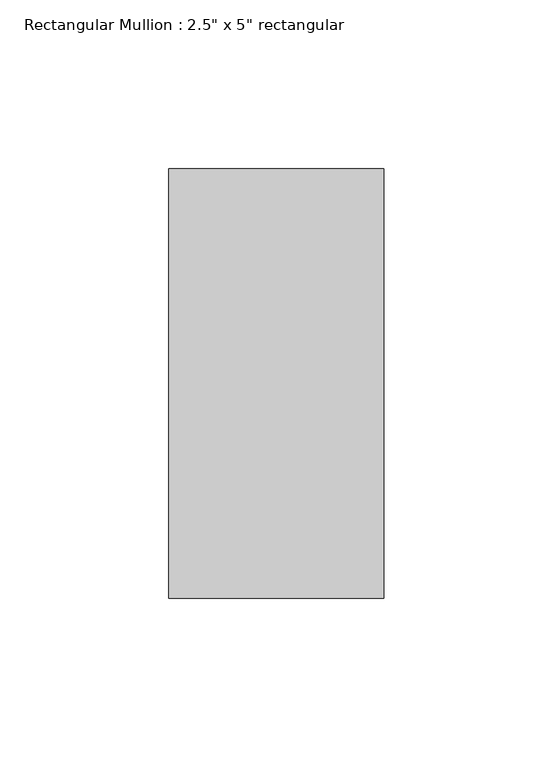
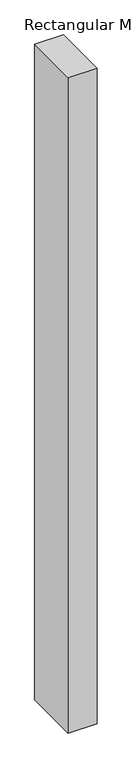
"""IFC4 building model written with IfcOpenShell, lengths in millimetres: member geometry."""

from ifc_helpers import new_model, si_unit, frame, origin, place, context, project, spatial, polyline, outline, extrude, source, transform, mapped, element, save


def member_373c7d6f(model_context):
    return source(origin(), model_context, "Body", "SweptSolid", [
        extrude(outline(polyline([(31.75, 50.8), (31.75, -76.2), (-31.75, -76.2), (-31.75, 50.8), (31.75, 50.8)])), frame((0.0, 0.0, -1524.0), z_axis=(0.0, 0.0, 1.0), x_axis=(1.0, 0.0, 0.0)), (0.0, 0.0, 1.0), 1524.0),
    ])


if __name__ == "__main__":
    model = new_model("IFC4")
    model_context = context("Model", 3, world=origin())
    ifc_project = project(units=[si_unit("LENGTHUNIT", "METRE", prefix="MILLI")], contexts=[model_context])
    site = spatial("IfcSite", under=ifc_project)
    building = spatial("IfcBuilding", under=site)
    placement = place(None, origin())
    member_shape = member_373c7d6f(model_context)
    element("IfcMember", 1, ObjectType="Rectangular Mullion : 2.5\" x 5\" rectangular", at=placement, inside=building, context=model_context, shape_type="MappedRepresentation", body=[
        mapped(member_shape, transform((0.0, 0.0, 0.0), x_axis=(1.0, 0.0, 0.0), y_axis=(0.0, 1.0, 0.0), z_axis=(0.0, 0.0, 1.0))),
    ])
    save(model, "model.ifc")
